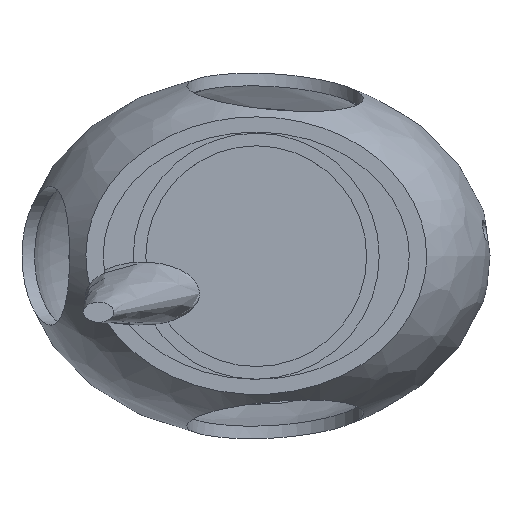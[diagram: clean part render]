
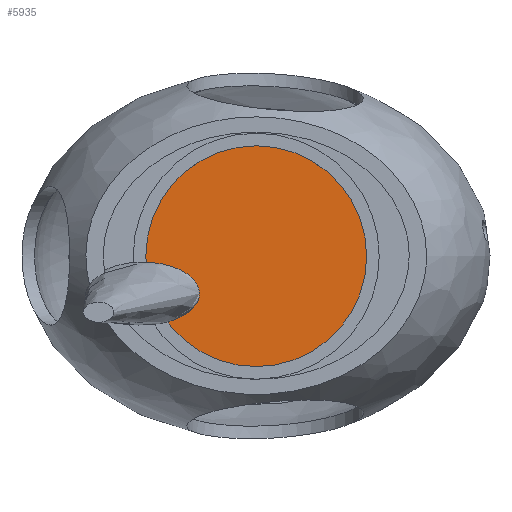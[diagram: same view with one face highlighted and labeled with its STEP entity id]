
A CAD part, top view. The second image highlights one B-rep face of the part: STEP entity #5935.
In plain terms, the highlighted planar face has unit normal (0, 0, 1).
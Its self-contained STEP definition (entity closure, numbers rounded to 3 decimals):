
#5869 = CYLINDRICAL_SURFACE('',#5870,0.875);
#5870 = AXIS2_PLACEMENT_3D('',#5871,#5872,#5873);
#5871 = CARTESIAN_POINT('',(0.,0.,0.));
#5872 = DIRECTION('',(-0.,-0.,-1.));
#5873 = DIRECTION('',(1.,0.,0.));
#5884 = EDGE_CURVE('',#5885,#5885,#5887,.T.);
#5885 = VERTEX_POINT('',#5886);
#5886 = CARTESIAN_POINT('',(0.875,0.,0.65));
#5887 = SURFACE_CURVE('',#5888,(#5893,#5900),.PCURVE_S1.);
#5888 = CIRCLE('',#5889,0.875);
#5889 = AXIS2_PLACEMENT_3D('',#5890,#5891,#5892);
#5890 = CARTESIAN_POINT('',(0.,0.,0.65)
  );
#5891 = DIRECTION('',(0.,0.,-1.));
#5892 = DIRECTION('',(1.,0.,0.));
#5893 = PCURVE('',#5869,#5894);
#5894 = DEFINITIONAL_REPRESENTATION('',(#5895),#5899);
#5895 = LINE('',#5896,#5897);
#5896 = CARTESIAN_POINT('',(-6.283,-0.65));
#5897 = VECTOR('',#5898,1.);
#5898 = DIRECTION('',(1.,-0.));
#5899 = ( GEOMETRIC_REPRESENTATION_CONTEXT(2) 
PARAMETRIC_REPRESENTATION_CONTEXT() REPRESENTATION_CONTEXT('2D SPACE',''
  ) );
#5900 = PCURVE('',#5901,#5906);
#5901 = PLANE('',#5902);
#5902 = AXIS2_PLACEMENT_3D('',#5903,#5904,#5905);
#5903 = CARTESIAN_POINT('',(1.55,0.,0.65));
#5904 = DIRECTION('',(-0.,0.,-1.));
#5905 = DIRECTION('',(-0.995,-0.097,0.));
#5906 = DEFINITIONAL_REPRESENTATION('',(#5907),#5911);
#5907 = CIRCLE('',#5908,0.875);
#5908 = AXIS2_PLACEMENT_2D('',#5909,#5910);
#5909 = CARTESIAN_POINT('',(1.543,0.151));
#5910 = DIRECTION('',(-0.995,-0.097));
#5911 = ( GEOMETRIC_REPRESENTATION_CONTEXT(2) 
PARAMETRIC_REPRESENTATION_CONTEXT() REPRESENTATION_CONTEXT('2D SPACE',''
  ) );
#5935 = ADVANCED_FACE('',(#5936),#5901,.F.);
#5936 = FACE_BOUND('',#5937,.F.);
#5937 = EDGE_LOOP('',(#5938));
#5938 = ORIENTED_EDGE('',*,*,#5884,.T.);
